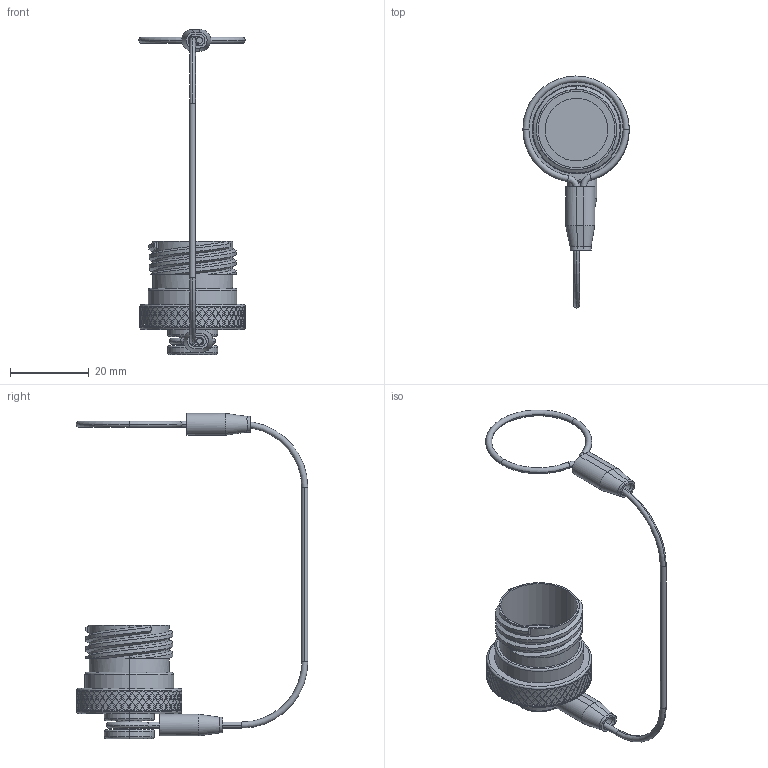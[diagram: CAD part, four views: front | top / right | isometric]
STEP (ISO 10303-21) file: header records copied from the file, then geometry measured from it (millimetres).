
FILE_DESCRIPTION (( 'STEP AP214' ), '1' );
FILE_NAME ('Q38DC-PGX-13-R2.STEP', '2026-04-22T18:17:00', ( '' ), ( '' ), 'SwSTEP 2.0', 'SolidWorks 2024', '' );
FILE_SCHEMA (( 'AUTOMOTIVE_DESIGN' ));
Length unit declared in the file: inch
Products named in the file (7): HEAT SHRINK_HS-250X625; SW-003; Lanyard Assembly Q38_PLUG; LN-06-07-XX-Q38eb_Plug; Q38DC-PGX-13-R2; Q38-XX29-P_13P; Q38-XX28-X_Q38-1328
Assembly tree (8 placements, depth 3):
  Q38DC-PGX-13-R2
    Q38-XX28-X_Q38-1328
    Lanyard Assembly Q38_PLUG
      LN-06-07-XX-Q38eb_Plug
      SW-003  x2
      HEAT SHRINK_HS-250X625  x2
    Q38-XX29-P_13P
Bounding box: 26.94 x 58.67 x 82.38 mm (x, y, z)
Volume: 5906.7 mm3; surface area: 7880.8 mm2
Topology: 7 solids, 7 shells, 1376 faces, 3305 edges, 2181 vertices
Faces by surface type: plane 1012, cylinder 313, torus 34, bspline 17
Entity records: 40428 total; most frequent: CARTESIAN_POINT 13791, ORIENTED_EDGE 6462, DIRECTION 4485, EDGE_CURVE 3231, VERTEX_POINT 2137, AXIS2_PLACEMENT_3D 1706, EDGE_LOOP 1586, ADVANCED_FACE 1342
